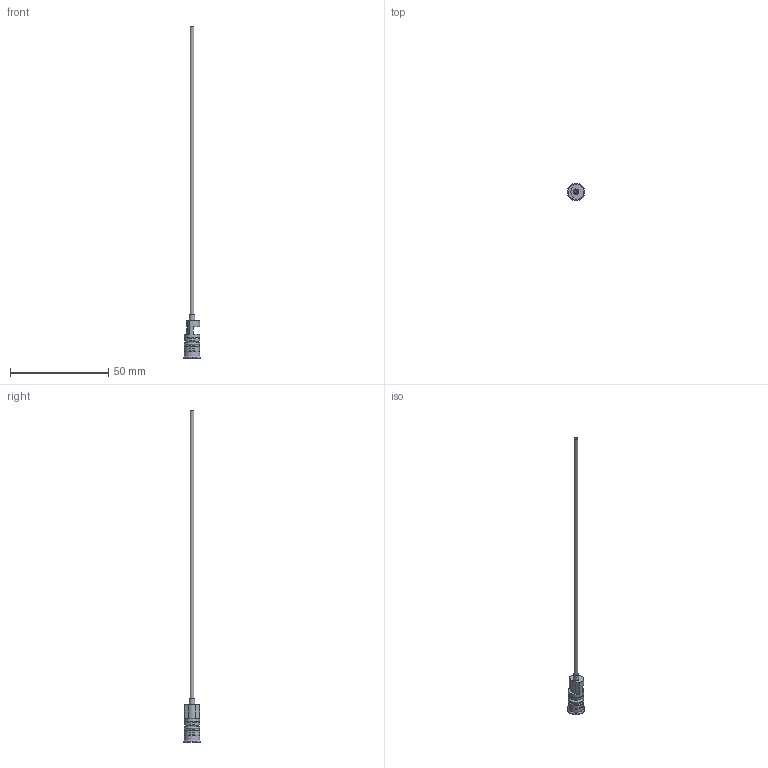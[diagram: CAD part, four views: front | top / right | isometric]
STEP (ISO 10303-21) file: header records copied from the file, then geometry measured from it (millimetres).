
FILE_DESCRIPTION(/* description */ (''),/* implementation_level */ '2;1');
FILE_NAME(/* name */ 'RF-8F_2x0,25x150',/* time_stamp */ '2005-07-25T14:23:28+02:00',/* author */ (''),/* organization */ (''),/* preprocessor_version */ 'ST-DEVELOPER v9',/* originating_system */ 'EDS PLM SOLUTIONS - UNIGRAPHICS NX 1.0',/* authorisation */ '');
FILE_SCHEMA (('CONFIG_CONTROL_DESIGN'));
Length unit declared in the file: millimetre
Products named in the file (1): Admi3EDE0095
Bounding box: 9 x 9 x 169.02 mm (x, y, z)
Volume: 879.7 mm3; surface area: 2697.2 mm2
Topology: 4 solids, 5 shells, 77 faces, 187 edges, 122 vertices
Faces by surface type: plane 34, cylinder 27, cone 12, torus 4
Full cylindrical faces by diameter (mm): 1.5 x1, 2 x1, 2.05 x3, 3 x1, 5.4 x3, 7.85 x3, 7.9 x2, 9 x1
Entity records: 2181 total; most frequent: CARTESIAN_POINT 432, DIRECTION 352, ORIENTED_EDGE 300, EDGE_CURVE 150, AXIS2_PLACEMENT_3D 145, VERTEX_POINT 114, EDGE_LOOP 108, ADVANCED_FACE 77
